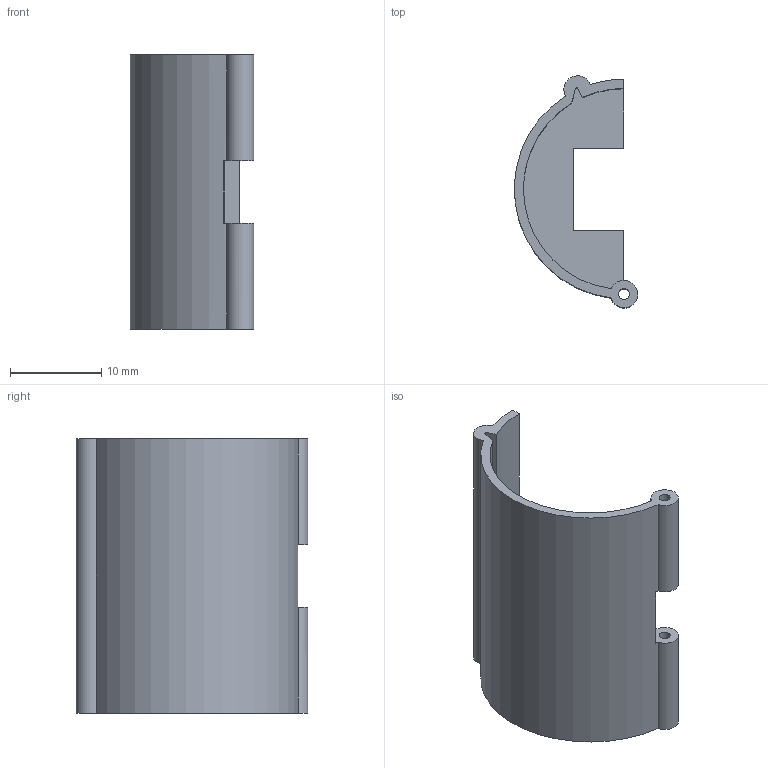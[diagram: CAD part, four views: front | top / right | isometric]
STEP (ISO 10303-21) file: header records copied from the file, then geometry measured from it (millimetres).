
FILE_DESCRIPTION(/* description */ (''),/* implementation_level */ '2;1');
FILE_NAME(/* name */ 'Z:\Projectgegevens\Group Denys-Willuhn\16104 Baseplate beschermhuls miniscope Rat\mantel rechts V2.stp',/* time_stamp */ '2017-10-27T14:15:36+02:00',/* author */ ('bos'),/* organization */ (''),/* preprocessor_version */ 'ST-DEVELOPER v16.5',/* originating_system */ 'Autodesk Inventor 2017',/* authorisation */ '');
FILE_SCHEMA (('AUTOMOTIVE_DESIGN { 1 0 10303 214 3 1 1 }'));
Length unit declared in the file: millimetre
Products named in the file (1): mantel rachts V2
Bounding box: 13.5 x 25.37 x 30 mm (x, y, z)
Volume: 1367.3 mm3; surface area: 2886.2 mm2
Topology: 1 solids, 1 shells, 23 faces, 63 edges, 42 vertices
Faces by surface type: plane 12, cylinder 11
Full cylindrical faces by diameter (mm): 1.2 x2
Entity records: 772 total; most frequent: DIRECTION 136, CARTESIAN_POINT 127, ORIENTED_EDGE 122, EDGE_CURVE 61, AXIS2_PLACEMENT_3D 51, VERTEX_POINT 42, LINE 34, VECTOR 34
